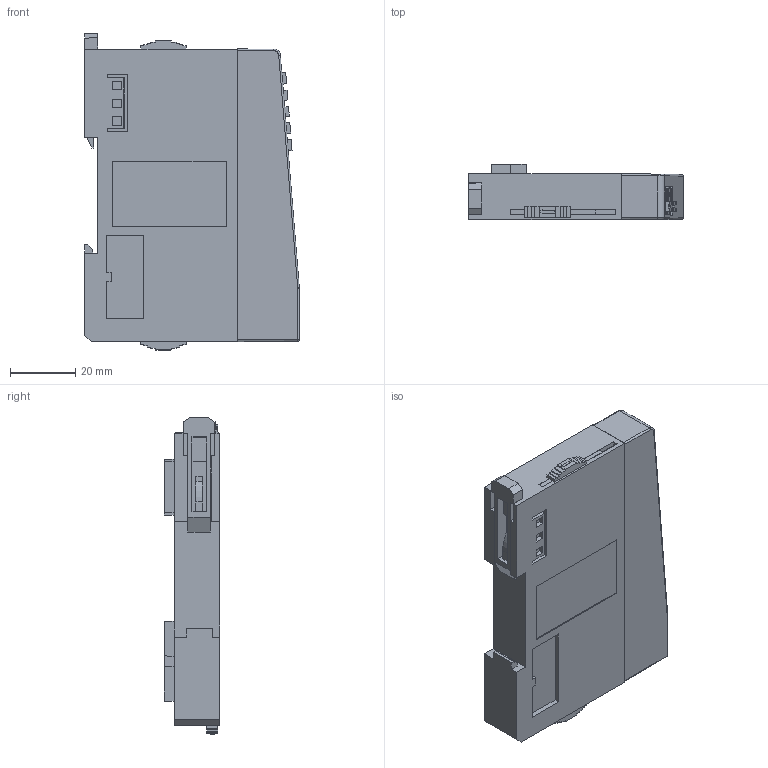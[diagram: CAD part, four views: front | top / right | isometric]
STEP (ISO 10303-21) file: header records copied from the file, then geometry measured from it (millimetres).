
FILE_DESCRIPTION(/* description */ (''),/* implementation_level */ '2;1');
FILE_NAME(/* name */ '电源模块.stp',/* time_stamp */ '2022-01-17T14:44:59+08:00',/* author */ (''),/* organization */ (''),/* preprocessor_version */ 'ST-DEVELOPER v16',/* originating_system */ 'SIEMENS PLM Software NX 10.0',/* authorisation */ '');
FILE_SCHEMA (('AP203_CONFIGURATION_CONTROLLED_3D_DESIGN_OF_MECHANICAL_PARTS_AND_ASSEMBLIES_MIM_LF { 1 0 10303 403 2 1 2}'));
Length unit declared in the file: millimetre
Products named in the file (1): 73494B50E7E6tzoz
Bounding box: 66.03 x 17 x 97.45 mm (x, y, z)
Volume: 76060.4 mm3; surface area: 23462.3 mm2
Topology: 6 solids, 6 shells, 507 faces, 1339 edges, 886 vertices
Faces by surface type: plane 443, cone 37, cylinder 21, torus 4, sphere 2
Full cylindrical faces by diameter (mm): 1.2 x5
Entity records: 15511 total; most frequent: CARTESIAN_POINT 2780, ORIENTED_EDGE 2666, DIRECTION 2447, EDGE_CURVE 1333, LINE 1209, VECTOR 1209, VERTEX_POINT 886, AXIS2_PLACEMENT_3D 619
